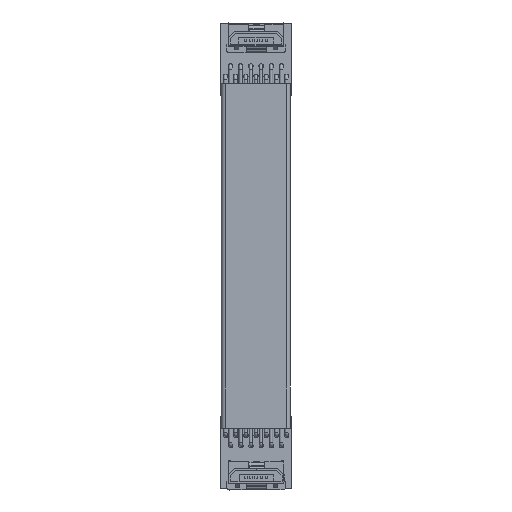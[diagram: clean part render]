
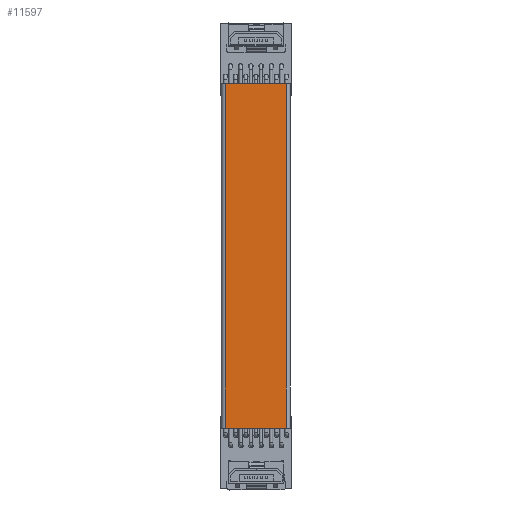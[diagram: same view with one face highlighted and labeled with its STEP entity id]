
A CAD part, top view. The second image highlights one B-rep face of the part: STEP entity #11597.
In plain terms, the highlighted planar face has unit normal (0, 0, 1) as drawn and (0, 1, 0) by its records, which use the part's own axes.
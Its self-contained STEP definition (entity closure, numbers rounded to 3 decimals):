
#11121 = VERTEX_POINT('',#11122);
#11122 = CARTESIAN_POINT('',(-0.001,-0.201,43.));
#11129 = EDGE_CURVE('',#11121,#11130,#11132,.T.);
#11130 = VERTEX_POINT('',#11131);
#11131 = CARTESIAN_POINT('',(-7.621,-0.201,43.));
#11132 = LINE('',#11133,#11134);
#11133 = CARTESIAN_POINT('',(-7.621,-0.201,43.));
#11134 = VECTOR('',#11135,1.);
#11135 = DIRECTION('',(-1.,0.,0.));
#11298 = VERTEX_POINT('',#11299);
#11299 = CARTESIAN_POINT('',(-0.001,-0.201,
    0.));
#11315 = VERTEX_POINT('',#11316);
#11316 = CARTESIAN_POINT('',(-7.621,-0.201,0.));
#11323 = EDGE_CURVE('',#11298,#11315,#11324,.T.);
#11324 = LINE('',#11325,#11326);
#11325 = CARTESIAN_POINT('',(-7.621,-0.201,0.));
#11326 = VECTOR('',#11327,1.);
#11327 = DIRECTION('',(-1.,0.,0.));
#11553 = EDGE_CURVE('',#11298,#11121,#11554,.T.);
#11554 = LINE('',#11555,#11556);
#11555 = CARTESIAN_POINT('',(-0.001,-0.201,
    0.));
#11556 = VECTOR('',#11557,1.);
#11557 = DIRECTION('',(0.,0.,1.));
#11585 = EDGE_CURVE('',#11315,#11130,#11586,.T.);
#11586 = LINE('',#11587,#11588);
#11587 = CARTESIAN_POINT('',(-7.621,-0.201,0.));
#11588 = VECTOR('',#11589,1.);
#11589 = DIRECTION('',(0.,0.,1.));
#11597 = ADVANCED_FACE('',(#11598),#11604,.T.);
#11598 = FACE_BOUND('',#11599,.T.);
#11599 = EDGE_LOOP('',(#11600,#11601,#11602,#11603));
#11600 = ORIENTED_EDGE('',*,*,#11129,.F.);
#11601 = ORIENTED_EDGE('',*,*,#11553,.F.);
#11602 = ORIENTED_EDGE('',*,*,#11323,.T.);
#11603 = ORIENTED_EDGE('',*,*,#11585,.T.);
#11604 = PLANE('',#11605);
#11605 = AXIS2_PLACEMENT_3D('',#11606,#11607,#11608);
#11606 = CARTESIAN_POINT('',(-7.621,-0.201,0.));
#11607 = DIRECTION('',(0.,1.,0.));
#11608 = DIRECTION('',(0.,0.,1.));
